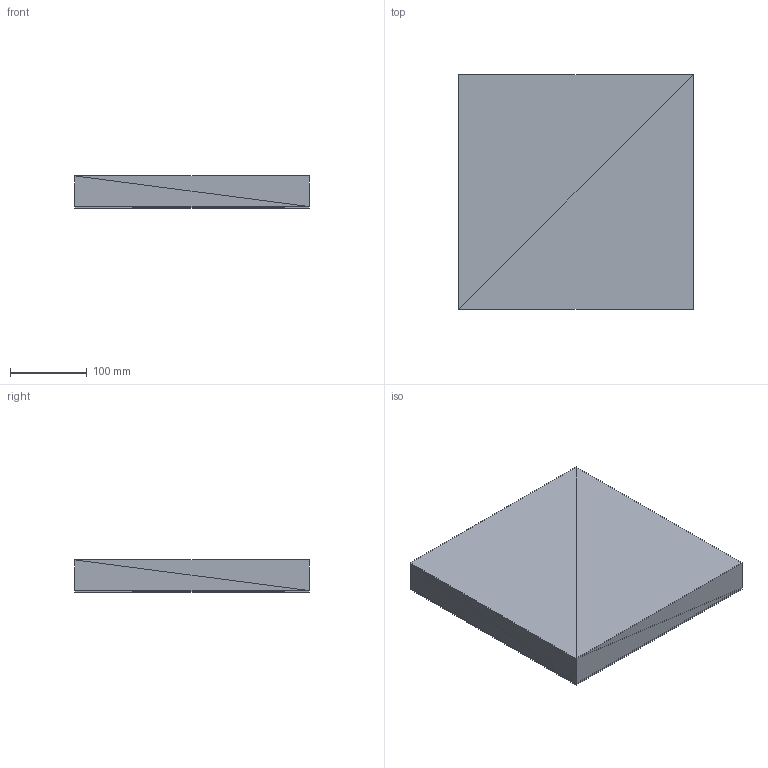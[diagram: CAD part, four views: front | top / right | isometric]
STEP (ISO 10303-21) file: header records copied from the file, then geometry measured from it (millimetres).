
FILE_DESCRIPTION(('ISINAC STEP AP214'),'2;1');
FILE_NAME('ISINAC_C.305_40mm_IMANTADA','2026-05-03T10:49:19',('ISINAC'),('www.isinac.com'),'ISINAC BIM Generator 1.0','','');
FILE_SCHEMA(('AUTOMOTIVE_DESIGN'));
Length unit declared in the file: millimetre
Products named in the file (1): ISINAC_C.305_40mm_IMANTADA
Bounding box: 305 x 305 x 42 mm (x, y, z)
Surface area: 423340 mm2 (no closed solid volume)
Topology: 0 solids, 24 shells, 24 faces, 72 edges, 72 vertices
Faces by surface type: plane 24
Entity records: 277 total; most frequent: CARTESIAN_POINT 96, DIRECTION 48, POLY_LOOP 24, FACE_OUTER_BOUND 24, AXIS2_PLACEMENT_3D 24, PLANE 24, FACE_SURFACE 24, CLOSED_SHELL 1
